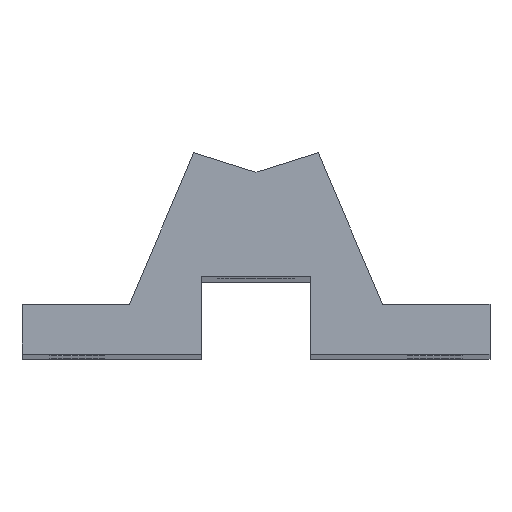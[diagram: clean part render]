
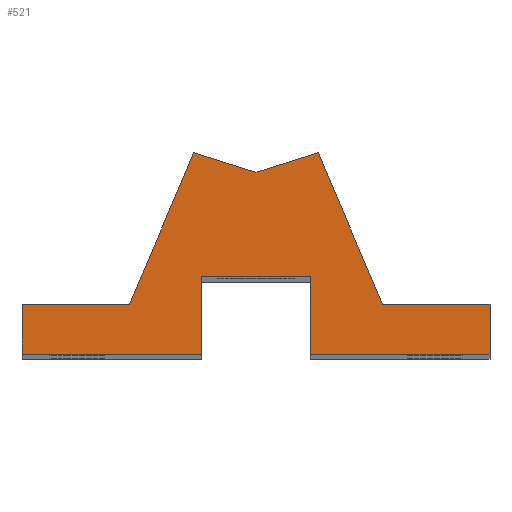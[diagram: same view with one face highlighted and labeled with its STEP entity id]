
A CAD part, top view. The second image highlights one B-rep face of the part: STEP entity #521.
In plain terms, the highlighted planar face has unit normal (0, 0, 1).
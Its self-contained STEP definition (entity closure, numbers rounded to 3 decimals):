
#9 = CARTESIAN_POINT ( 'NONE',  ( 12.4, 35.683, 299.75 ) ) ;
#14 = CARTESIAN_POINT ( 'NONE',  ( 11., 10.5, 299.75 ) ) ;
#28 = CARTESIAN_POINT ( 'NONE',  ( -47., -5., 299.75 ) ) ;
#41 = VERTEX_POINT ( 'NONE', #813 ) ;
#79 = CARTESIAN_POINT ( 'NONE',  ( -47., 5., 299.75 ) ) ;
#81 = ORIENTED_EDGE ( 'NONE', *, *, #131, .F. ) ;
#83 = DIRECTION ( 'NONE',  ( -0.954, 0.301, 0. ) ) ;
#85 = ORIENTED_EDGE ( 'NONE', *, *, #325, .T. ) ;
#98 = CARTESIAN_POINT ( 'NONE',  ( -12.486, 35.481, 299.75 ) ) ;
#100 = CARTESIAN_POINT ( 'NONE',  ( 11., -5., 299.75 ) ) ;
#102 = EDGE_CURVE ( 'NONE', #706, #112, #561, .T. ) ;
#105 = ORIENTED_EDGE ( 'NONE', *, *, #179, .T. ) ;
#112 = VERTEX_POINT ( 'NONE', #957 ) ;
#125 = VECTOR ( 'NONE', #550, 1000. ) ;
#131 = EDGE_CURVE ( 'NONE', #672, #41, #887, .T. ) ;
#149 = EDGE_CURVE ( 'NONE', #289, #189, #579, .T. ) ;
#156 = DIRECTION ( 'NONE',  ( 1., 0., 0. ) ) ;
#159 = AXIS2_PLACEMENT_3D ( 'NONE', #975, #237, #156 ) ;
#160 = EDGE_CURVE ( 'NONE', #894, #1027, #833, .T. ) ;
#176 = VECTOR ( 'NONE', #670, 1000. ) ;
#179 = EDGE_CURVE ( 'NONE', #776, #394, #907, .T. ) ;
#189 = VERTEX_POINT ( 'NONE', #994 ) ;
#194 = VECTOR ( 'NONE', #457, 1000. ) ;
#207 = CARTESIAN_POINT ( 'NONE',  ( -25.424, 5., 299.75 ) ) ;
#208 = LINE ( 'NONE', #474, #234 ) ;
#212 = VECTOR ( 'NONE', #808, 1000. ) ;
#218 = LINE ( 'NONE', #881, #125 ) ;
#234 = VECTOR ( 'NONE', #563, 1000. ) ;
#237 = DIRECTION ( 'NONE',  ( 0., 0., 1. ) ) ;
#238 = CARTESIAN_POINT ( 'NONE',  ( 0., 31.544, 299.75 ) ) ;
#256 = EDGE_CURVE ( 'NONE', #335, #672, #777, .T. ) ;
#259 = EDGE_CURVE ( 'NONE', #706, #335, #435, .T. ) ;
#271 = LINE ( 'NONE', #753, #176 ) ;
#283 = VERTEX_POINT ( 'NONE', #28 ) ;
#285 = VECTOR ( 'NONE', #425, 1000. ) ;
#289 = VERTEX_POINT ( 'NONE', #1005 ) ;
#300 = CARTESIAN_POINT ( 'NONE',  ( -47., 5., 299.75 ) ) ;
#318 = VECTOR ( 'NONE', #417, 1000. ) ;
#321 = ORIENTED_EDGE ( 'NONE', *, *, #256, .F. ) ;
#325 = EDGE_CURVE ( 'NONE', #283, #41, #864, .T. ) ;
#326 = CARTESIAN_POINT ( 'NONE',  ( 0., 31.544, 299.75 ) ) ;
#335 = VERTEX_POINT ( 'NONE', #14 ) ;
#365 = CARTESIAN_POINT ( 'NONE',  ( -47., -5., 299.75 ) ) ;
#394 = VERTEX_POINT ( 'NONE', #300 ) ;
#397 = EDGE_CURVE ( 'NONE', #1027, #776, #218, .T. ) ;
#417 = DIRECTION ( 'NONE',  ( -0.954, -0.301, 0. ) ) ;
#425 = DIRECTION ( 'NONE',  ( -1., 0., 0. ) ) ;
#427 = VERTEX_POINT ( 'NONE', #798 ) ;
#435 = LINE ( 'NONE', #762, #801 ) ;
#455 = EDGE_CURVE ( 'NONE', #112, #289, #208, .T. ) ;
#457 = DIRECTION ( 'NONE',  ( -1., 0., 0. ) ) ;
#474 = CARTESIAN_POINT ( 'NONE',  ( 47., 5., 299.75 ) ) ;
#484 = CARTESIAN_POINT ( 'NONE',  ( -11., 10.5, 299.75 ) ) ;
#498 = VECTOR ( 'NONE', #83, 1000. ) ;
#516 = ORIENTED_EDGE ( 'NONE', *, *, #748, .T. ) ;
#521 = ADVANCED_FACE ( 'NONE', ( #734 ), #1055, .T. ) ;
#538 = ORIENTED_EDGE ( 'NONE', *, *, #149, .T. ) ;
#550 = DIRECTION ( 'NONE',  ( -0.391, -0.921, 0. ) ) ;
#561 = LINE ( 'NONE', #964, #627 ) ;
#563 = DIRECTION ( 'NONE',  ( 0., 1., 0. ) ) ;
#577 = ORIENTED_EDGE ( 'NONE', *, *, #397, .T. ) ;
#579 = LINE ( 'NONE', #79, #285 ) ;
#603 = DIRECTION ( 'NONE',  ( 0., 1., 0. ) ) ;
#624 = DIRECTION ( 'NONE',  ( 1., 0., 0. ) ) ;
#627 = VECTOR ( 'NONE', #624, 1000. ) ;
#661 = DIRECTION ( 'NONE',  ( -0.391, 0.921, 0. ) ) ;
#662 = DIRECTION ( 'NONE',  ( -1., 0., 0. ) ) ;
#670 = DIRECTION ( 'NONE',  ( 0., -1., 0. ) ) ;
#672 = VERTEX_POINT ( 'NONE', #1009 ) ;
#673 = EDGE_CURVE ( 'NONE', #189, #427, #749, .T. ) ;
#694 = ORIENTED_EDGE ( 'NONE', *, *, #160, .T. ) ;
#706 = VERTEX_POINT ( 'NONE', #100 ) ;
#734 = FACE_OUTER_BOUND ( 'NONE', #966, .T. ) ;
#740 = ORIENTED_EDGE ( 'NONE', *, *, #455, .T. ) ;
#742 = CARTESIAN_POINT ( 'NONE',  ( -47., 5., 299.75 ) ) ;
#748 = EDGE_CURVE ( 'NONE', #427, #894, #843, .T. ) ;
#749 = LINE ( 'NONE', #9, #992 ) ;
#753 = CARTESIAN_POINT ( 'NONE',  ( -47., 5., 299.75 ) ) ;
#755 = CARTESIAN_POINT ( 'NONE',  ( 13.126, 35.683, 299.75 ) ) ;
#756 = CARTESIAN_POINT ( 'NONE',  ( -11., 10.5, 299.75 ) ) ;
#762 = CARTESIAN_POINT ( 'NONE',  ( 11., 10.5, 299.75 ) ) ;
#764 = ORIENTED_EDGE ( 'NONE', *, *, #259, .F. ) ;
#770 = DIRECTION ( 'NONE',  ( 1., 0., 0. ) ) ;
#776 = VERTEX_POINT ( 'NONE', #207 ) ;
#777 = LINE ( 'NONE', #756, #194 ) ;
#798 = CARTESIAN_POINT ( 'NONE',  ( 12.486, 35.481, 299.75 ) ) ;
#801 = VECTOR ( 'NONE', #603, 1000. ) ;
#808 = DIRECTION ( 'NONE',  ( 0., -1., 0. ) ) ;
#813 = CARTESIAN_POINT ( 'NONE',  ( -11., -5., 299.75 ) ) ;
#833 = LINE ( 'NONE', #238, #498 ) ;
#843 = LINE ( 'NONE', #755, #318 ) ;
#864 = LINE ( 'NONE', #365, #942 ) ;
#866 = ORIENTED_EDGE ( 'NONE', *, *, #102, .T. ) ;
#881 = CARTESIAN_POINT ( 'NONE',  ( -25.424, 5., 299.75 ) ) ;
#887 = LINE ( 'NONE', #484, #212 ) ;
#894 = VERTEX_POINT ( 'NONE', #326 ) ;
#907 = LINE ( 'NONE', #742, #1033 ) ;
#938 = ORIENTED_EDGE ( 'NONE', *, *, #673, .T. ) ;
#942 = VECTOR ( 'NONE', #770, 1000. ) ;
#957 = CARTESIAN_POINT ( 'NONE',  ( 47., -5., 299.75 ) ) ;
#964 = CARTESIAN_POINT ( 'NONE',  ( -47., -5., 299.75 ) ) ;
#966 = EDGE_LOOP ( 'NONE', ( #764, #866, #740, #538, #938, #516, #694, #577, #105, #987, #85, #81, #321 ) ) ;
#975 = CARTESIAN_POINT ( 'NONE',  ( 0., 0., 299.75 ) ) ;
#987 = ORIENTED_EDGE ( 'NONE', *, *, #1048, .T. ) ;
#992 = VECTOR ( 'NONE', #661, 1000. ) ;
#994 = CARTESIAN_POINT ( 'NONE',  ( 25.424, 5., 299.75 ) ) ;
#1005 = CARTESIAN_POINT ( 'NONE',  ( 47., 5., 299.75 ) ) ;
#1009 = CARTESIAN_POINT ( 'NONE',  ( -11., 10.5, 299.75 ) ) ;
#1027 = VERTEX_POINT ( 'NONE', #98 ) ;
#1033 = VECTOR ( 'NONE', #662, 1000. ) ;
#1048 = EDGE_CURVE ( 'NONE', #394, #283, #271, .T. ) ;
#1055 = PLANE ( 'NONE',  #159 ) ;
